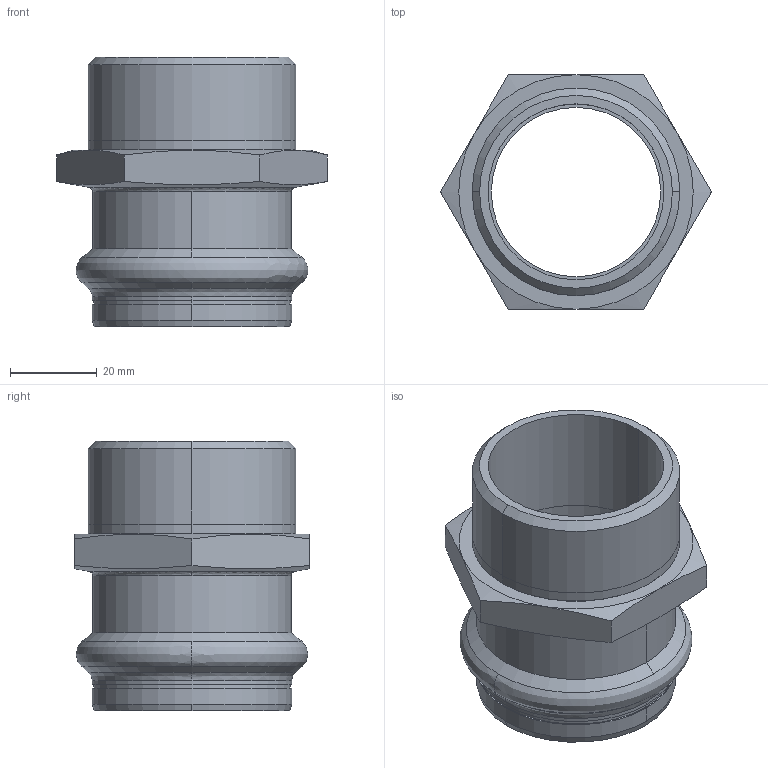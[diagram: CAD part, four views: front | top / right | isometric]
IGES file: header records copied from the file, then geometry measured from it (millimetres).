
Start section: Elysium IGES Interface
Global section: file name: C:\Users\Wallenburg\Desktop\3d modellen sudo\S-Pr VP\SP6243GV\6243GVW42112.igs; native system: CoCreate Modeling 17.00A  17-Jun-2010; preprocessor: CoCreate IGES_3D V2.2; author: Unknown; organization: Unknown; date: 20130124.141559; units: millimetre
Bounding box: 62.35 x 54 x 62.1 mm (x, y, z)
Volume: 31929.9 mm3; surface area: 20590.3 mm2
Topology: 1 solids, 1 shells, 67 faces, 164 edges, 104 vertices
Faces by surface type: bspline 67
